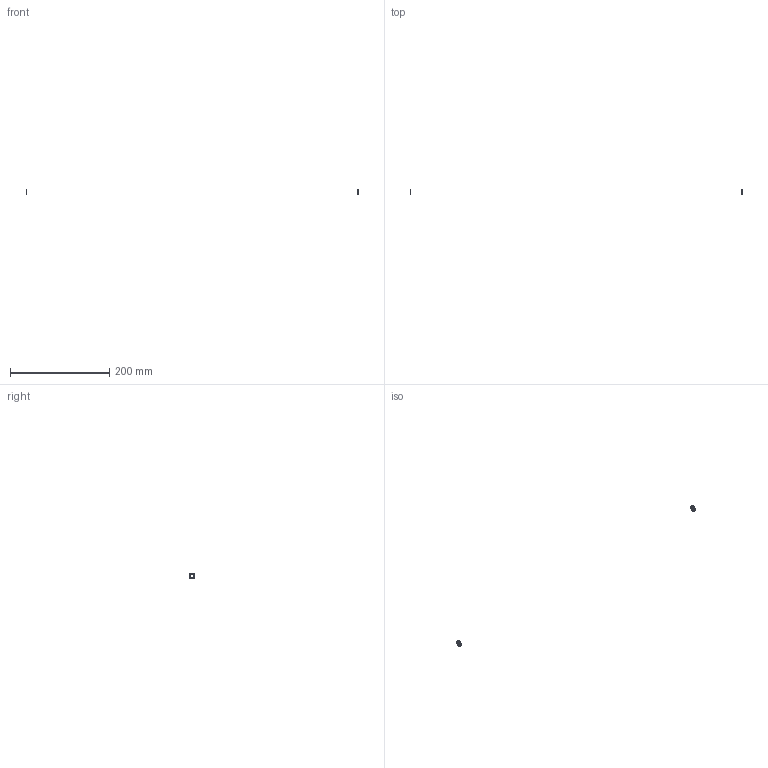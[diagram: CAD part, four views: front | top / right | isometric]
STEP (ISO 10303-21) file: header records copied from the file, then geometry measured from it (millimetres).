
FILE_DESCRIPTION(/* description */ (''),/* implementation_level */ '2;1');
FILE_NAME(/* name */ '6.y-drive#6.10#WASSH12-6-2',/* time_stamp */ '2014-12-01T20:16:21+01:00',/* author */ (''),/* organization */ (''),/* preprocessor_version */ 'ST-DEVELOPER v14',/* originating_system */ '',/* authorisation */ '');
FILE_SCHEMA (('AUTOMOTIVE_DESIGN'));
Length unit declared in the file: millimetre
Products named in the file (1): Document
Bounding box: 670 x 12 x 11.98 mm (x, y, z)
Volume: 335.5 mm3; surface area: 539.9 mm2
Topology: 2 solids, 2 shells, 28 faces, 56 edges, 32 vertices
Faces by surface type: bspline 24, plane 4
Entity records: 1699 total; most frequent: CARTESIAN_POINT 950, B_SPLINE_CURVE_WITH_KNOTS 120, ORIENTED_EDGE 112, PCURVE 112, DEFINITIONAL_REPRESENTATION 112, SURFACE_CURVE 56, EDGE_CURVE 56, EDGE_LOOP 32
